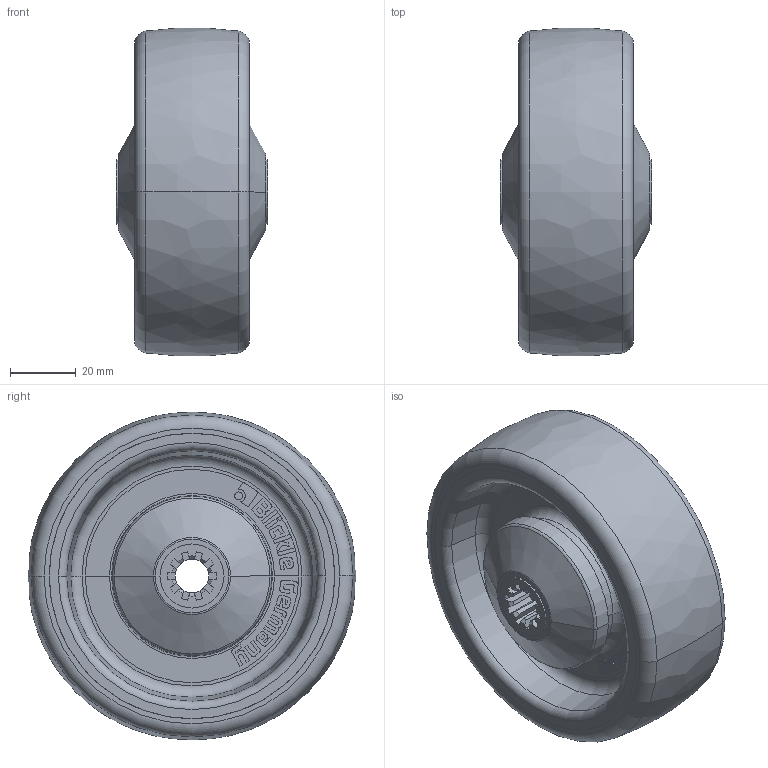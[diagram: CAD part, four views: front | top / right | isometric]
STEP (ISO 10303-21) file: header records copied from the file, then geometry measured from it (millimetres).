
FILE_DESCRIPTION (( 'STEP AP214' ), '1' );
FILE_NAME ('POTH_100_10K_253609-214.step', '2021-10-26T08:06:01', ( '' ), ( '' ), 'SwSTEP 2.0', 'SolidWorks 2018', '' );
FILE_SCHEMA (( 'AUTOMOTIVE_DESIGN' ));
Length unit declared in the file: millimetre
Products named in the file (2): POTH_100_10K_253609-214; POTH_100_10K_G16_3D
Assembly tree (1 placements, depth 2):
  POTH_100_10K_253609-214
    POTH_100_10K_G16_3D
Bounding box: 46 x 99.78 x 99.78 mm (x, y, z)
Volume: 170903.7 mm3; surface area: 54920.5 mm2
Topology: 1 solids, 5 shells, 840 faces, 2234 edges, 1458 vertices
Faces by surface type: plane 390, bspline 212, cone 106, cylinder 70, torus 62
Entity records: 32234 total; most frequent: CARTESIAN_POINT 12994, ORIENTED_EDGE 4468, DIRECTION 2912, EDGE_CURVE 2234, VERTEX_POINT 1458, AXIS2_PLACEMENT_3D 1054, B_SPLINE_CURVE_WITH_KNOTS 1008, EDGE_LOOP 904
